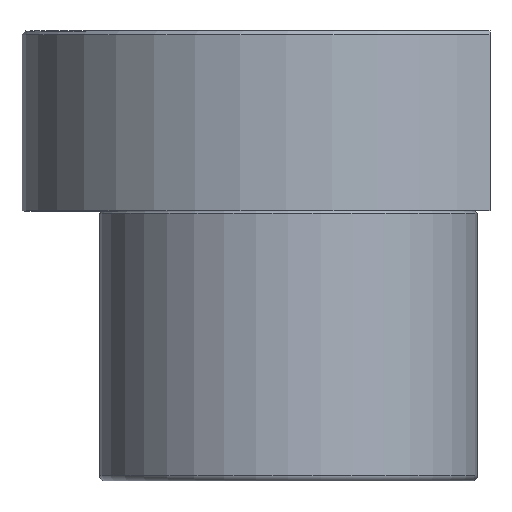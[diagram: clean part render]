
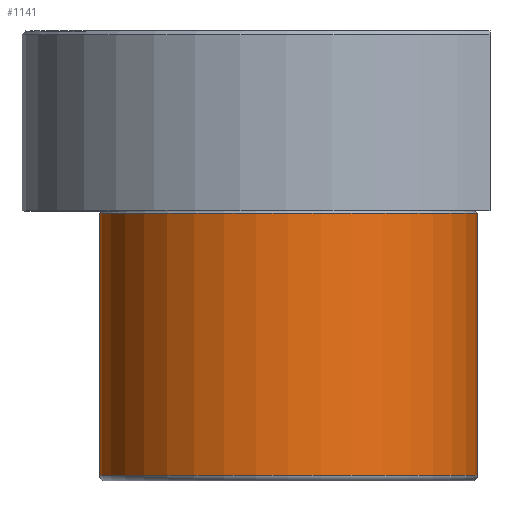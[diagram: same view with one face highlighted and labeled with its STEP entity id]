
A CAD part, front view. The second image highlights one B-rep face of the part: STEP entity #1141.
In plain terms, the highlighted cylindrical face has radius 52.5 mm (diameter 105 mm), a partial arc.
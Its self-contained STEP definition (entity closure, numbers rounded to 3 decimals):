
#953=CARTESIAN_POINT('Vertex',(52.5,0.,-0.6)) ;
#955=CARTESIAN_POINT('Vertex',(-52.5,0.,-0.6)) ;
#980=CARTESIAN_POINT('Axis2P3D Location',(0.,0.,-0.6)) ;
#1087=CARTESIAN_POINT('Line Origine',(-52.5,0.,50.)) ;
#1091=CARTESIAN_POINT('Vertex',(-52.5,0.,-73.4)) ;
#1094=CARTESIAN_POINT('Line Origine',(52.5,0.,50.)) ;
#1098=CARTESIAN_POINT('Vertex',(52.5,0.,-73.4)) ;
#1125=CARTESIAN_POINT('Axis2P3D Location',(0.,0.,50.)) ;
#1130=CARTESIAN_POINT('Axis2P3D Location',(0.,0.,-73.4)) ;
#981=DIRECTION('Axis2P3D Direction',(0.,-0.,1.)) ;
#1088=DIRECTION('Vector Direction',(0.,0.,-1.)) ;
#1095=DIRECTION('Vector Direction',(0.,0.,-1.)) ;
#1126=DIRECTION('Axis2P3D Direction',(0.,0.,-1.)) ;
#1127=DIRECTION('Axis2P3D XDirection',(1.,0.,0.)) ;
#1131=DIRECTION('Axis2P3D Direction',(0.,0.,-1.)) ;
#982=AXIS2_PLACEMENT_3D('Circle Axis2P3D',#980,#981,$) ;
#1128=AXIS2_PLACEMENT_3D('Cylinder Axis2P3D',#1125,#1126,#1127) ;
#1132=AXIS2_PLACEMENT_3D('Circle Axis2P3D',#1130,#1131,$) ;
#1136=ORIENTED_EDGE('',*,*,#1100,.T.) ;
#1137=ORIENTED_EDGE('',*,*,#984,.F.) ;
#1138=ORIENTED_EDGE('',*,*,#1093,.T.) ;
#1139=ORIENTED_EDGE('',*,*,#1134,.T.) ;
#1089=VECTOR('Line Direction',#1088,1.) ;
#1096=VECTOR('Line Direction',#1095,1.) ;
#1141=ADVANCED_FACE('737-80',(#1140),#1129,.T.) ;
#983=CIRCLE('generated circle',#982,52.5) ;
#1133=CIRCLE('generated circle',#1132,52.5) ;
#1129=CYLINDRICAL_SURFACE('generated cylinder',#1128,52.5) ;
#984=EDGE_CURVE('',#956,#954,#983,.T.) ;
#1093=EDGE_CURVE('',#956,#1092,#1090,.T.) ;
#1100=EDGE_CURVE('',#1099,#954,#1097,.F.) ;
#1134=EDGE_CURVE('',#1092,#1099,#1133,.F.) ;
#1135=EDGE_LOOP('',(#1136,#1137,#1138,#1139)) ;
#1140=FACE_OUTER_BOUND('',#1135,.T.) ;
#1090=LINE('Line',#1087,#1089) ;
#1097=LINE('Line',#1094,#1096) ;
#954=VERTEX_POINT('',#953) ;
#956=VERTEX_POINT('',#955) ;
#1092=VERTEX_POINT('',#1091) ;
#1099=VERTEX_POINT('',#1098) ;
